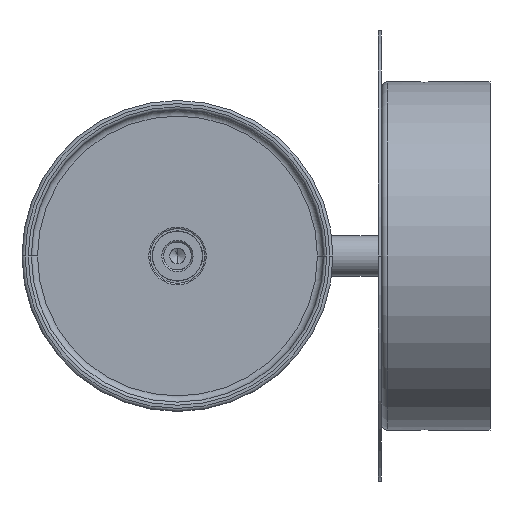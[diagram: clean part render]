
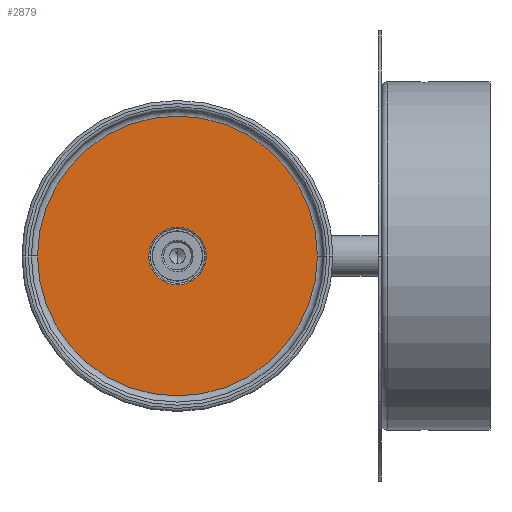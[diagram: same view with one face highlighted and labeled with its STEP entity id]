
A CAD part, front view. The second image highlights one B-rep face of the part: STEP entity #2879.
In plain terms, the highlighted planar face has unit normal (0, -1, 0).
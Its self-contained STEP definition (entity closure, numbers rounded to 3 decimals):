
#61 = DIRECTION ( 'NONE',  ( 0., 1., 0. ) ) ;
#96 = CARTESIAN_POINT ( 'NONE',  ( 9.25, 187., 0. ) ) ;
#342 = DIRECTION ( 'NONE',  ( 1., 0., 0. ) ) ;
#549 = CARTESIAN_POINT ( 'NONE',  ( -9.25, 187., 0. ) ) ;
#619 = CARTESIAN_POINT ( 'NONE',  ( -45., 187., 0. ) ) ;
#655 = EDGE_CURVE ( 'NONE', #2105, #4968, #5772, .T. ) ;
#696 = EDGE_CURVE ( 'NONE', #5828, #2133, #3693, .T. ) ;
#1228 = AXIS2_PLACEMENT_3D ( 'NONE', #4398, #61, #2932 ) ;
#1378 = DIRECTION ( 'NONE',  ( 0., 1., 0. ) ) ;
#1510 = AXIS2_PLACEMENT_3D ( 'NONE', #5771, #2842, #342 ) ;
#1687 = FACE_OUTER_BOUND ( 'NONE', #5635, .T. ) ;
#1788 = ORIENTED_EDGE ( 'NONE', *, *, #4212, .T. ) ;
#2036 = CARTESIAN_POINT ( 'NONE',  ( 0., 187., 0. ) ) ;
#2105 = VERTEX_POINT ( 'NONE', #549 ) ;
#2133 = VERTEX_POINT ( 'NONE', #6157 ) ;
#2155 = AXIS2_PLACEMENT_3D ( 'NONE', #619, #6170, #4095 ) ;
#2469 = CIRCLE ( 'NONE', #1228, 9.25 ) ;
#2601 = EDGE_CURVE ( 'NONE', #4968, #2105, #2469, .T. ) ;
#2842 = DIRECTION ( 'NONE',  ( 0., -1., 0. ) ) ;
#2879 = ADVANCED_FACE ( 'NONE', ( #3115, #1687 ), #4188, .F. ) ;
#2932 = DIRECTION ( 'NONE',  ( -1., 0., 0. ) ) ;
#3011 = CARTESIAN_POINT ( 'NONE',  ( -45., 187., 0. ) ) ;
#3115 = FACE_BOUND ( 'NONE', #5202, .T. ) ;
#3361 = DIRECTION ( 'NONE',  ( -1., 0., 0. ) ) ;
#3527 = CARTESIAN_POINT ( 'NONE',  ( 0., 187., 0. ) ) ;
#3693 = CIRCLE ( 'NONE', #1510, 45. ) ;
#3922 = CIRCLE ( 'NONE', #4744, 45. ) ;
#4095 = DIRECTION ( 'NONE',  ( -1., 0., 0. ) ) ;
#4188 = PLANE ( 'NONE',  #2155 ) ;
#4212 = EDGE_CURVE ( 'NONE', #2133, #5828, #3922, .T. ) ;
#4389 = ORIENTED_EDGE ( 'NONE', *, *, #696, .T. ) ;
#4398 = CARTESIAN_POINT ( 'NONE',  ( 0., 187., 0. ) ) ;
#4565 = DIRECTION ( 'NONE',  ( 1., 0., 0. ) ) ;
#4599 = DIRECTION ( 'NONE',  ( 0., -1., 0. ) ) ;
#4612 = ORIENTED_EDGE ( 'NONE', *, *, #2601, .T. ) ;
#4744 = AXIS2_PLACEMENT_3D ( 'NONE', #3527, #4599, #4565 ) ;
#4968 = VERTEX_POINT ( 'NONE', #96 ) ;
#5040 = AXIS2_PLACEMENT_3D ( 'NONE', #2036, #1378, #3361 ) ;
#5202 = EDGE_LOOP ( 'NONE', ( #6073, #4612 ) ) ;
#5635 = EDGE_LOOP ( 'NONE', ( #1788, #4389 ) ) ;
#5771 = CARTESIAN_POINT ( 'NONE',  ( 0., 187., 0. ) ) ;
#5772 = CIRCLE ( 'NONE', #5040, 9.25 ) ;
#5828 = VERTEX_POINT ( 'NONE', #3011 ) ;
#6073 = ORIENTED_EDGE ( 'NONE', *, *, #655, .T. ) ;
#6157 = CARTESIAN_POINT ( 'NONE',  ( 45., 187., 0. ) ) ;
#6170 = DIRECTION ( 'NONE',  ( 0., 1., 0. ) ) ;
